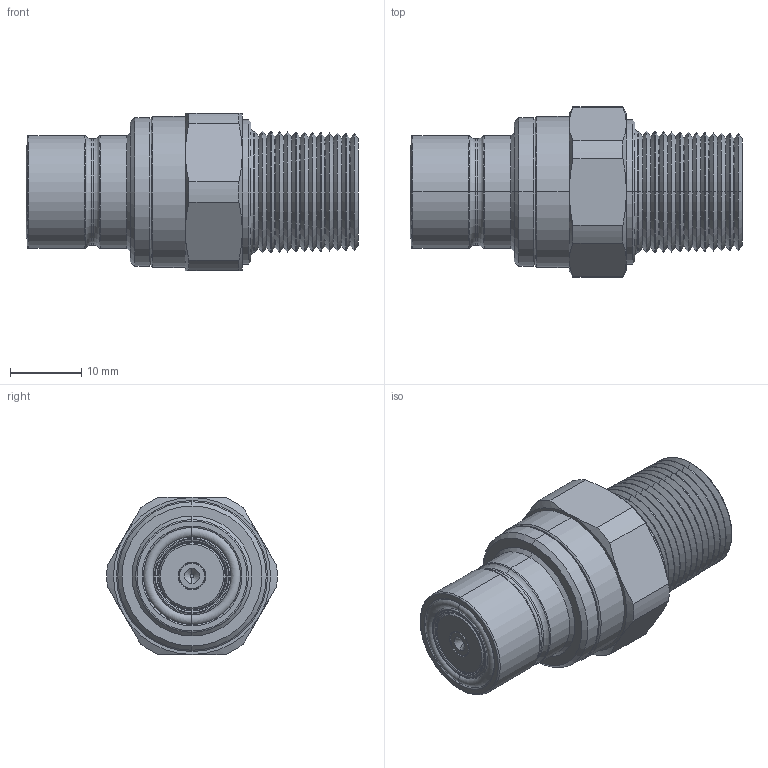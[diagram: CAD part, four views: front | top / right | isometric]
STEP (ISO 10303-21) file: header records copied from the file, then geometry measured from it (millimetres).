
FILE_DESCRIPTION (( 'STEP AP203' ), '1' );
FILE_NAME ('QD3-MTN38.STEP', '2025-01-02T02:43:43', ( 'aksong' ), ( '' ), 'SwSTEP 2.0', 'SolidWorks 2012', '' );
FILE_SCHEMA (( 'CONFIG_CONTROL_DESIGN' ));
Length unit declared in the file: millimetre
Products named in the file (3): QD3-MTN38; NPT3_8, male 喻闌; male body
Assembly tree (2 placements, depth 2):
  QD3-MTN38
    male body
    NPT3_8, male 喻闌
Bounding box: 46.52 x 23.88 x 22 mm (x, y, z)
Volume: 10766.9 mm3; surface area: 5052.1 mm2
Topology: 2 solids, 2 shells, 203 faces, 420 edges, 232 vertices
Faces by surface type: cone 134, torus 24, cylinder 24, plane 21
Entity records: 5669 total; most frequent: DIRECTION 1050, CARTESIAN_POINT 968, ORIENTED_EDGE 840, AXIS2_PLACEMENT_3D 446, EDGE_CURVE 420, CIRCLE 238, VERTEX_POINT 232, EDGE_LOOP 216
